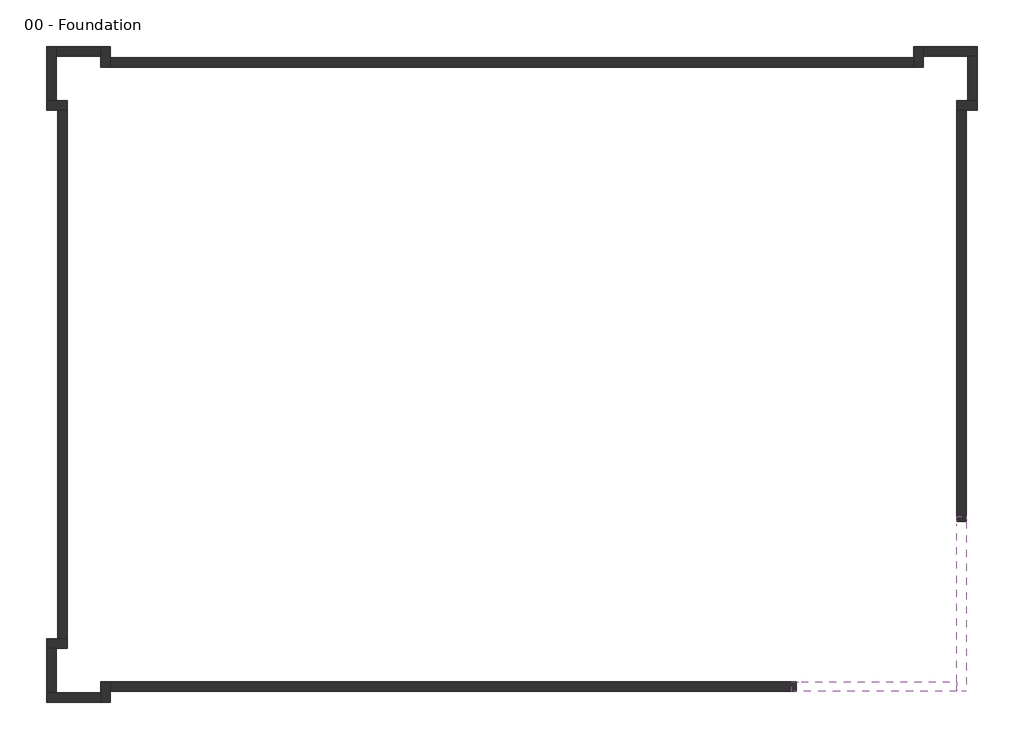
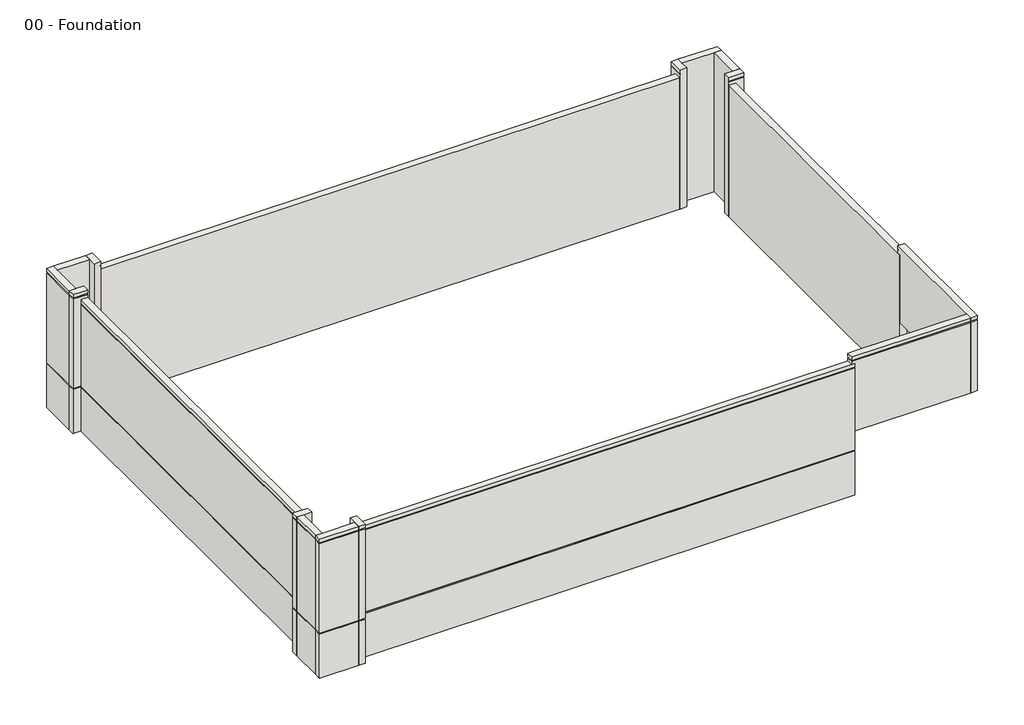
# One storey: 18 walls.
"""IFC4 building model written with IfcOpenShell, lengths in millimetres."""

from ifc_helpers import new_model, si_unit, frame, origin, place, context, project, spatial, polyline, outline, extrude, faceted_brep, element, save

model = new_model("IFC4")

# Units and contexts
model_context = context("Model", 3, world=origin())
ifc_project = project(units=[si_unit("LENGTHUNIT", "METRE", prefix="MILLI")], contexts=[model_context])

# Site, building, storey
site = spatial("IfcSite", under=ifc_project)
building = spatial("IfcBuilding", under=site)
storey = spatial("IfcBuildingStorey", under=building, Name="00 - Foundation", Elevation=-1250.0)

# Walls
placement = place(None, origin())
element("IfcWall", 1, ObjectType="Exterior - Render on Brick on Block @ Entry", at=placement, inside=storey, context=model_context, shape_type="Brep", body=[
    faceted_brep([(18351.5272279, -6696.4313057, 3000.0), (18351.5272279, -13977.9313057, 3000.0), (18351.5272279, -14406.9313057, 3000.0), (18351.5272279, -14406.9313057, 7700.0), (18351.5272279, -14331.9313057, 7700.0), (18351.5272279, -14331.9313057, 7775.0), (18351.5272279, -14406.9313057, 7775.0), (18351.5272279, -14406.9313057, 8000.0), (18351.5272279, -13977.9313057, 8000.0), (18351.5272279, -6910.9313057, 8000.0), (18351.5272279, -6481.9313057, 8000.0), (18351.5272279, -6481.9313057, 7775.0), (18351.5272279, -6556.9313057, 7775.0), (18351.5272279, -6556.9313057, 7700.0), (18351.5272279, -6481.9313057, 7700.0), (18351.5272279, -6481.9313057, 7500.0), (18351.5272279, -6696.4313057, 7500.0), (18780.5272279, -14406.9313057, 3000.0), (18780.5272279, -6696.4313057, 3000.0), (18780.5272279, -6696.4313057, 7200.0), (18780.5272279, -6696.4313057, 7275.0), (18780.5272279, -6696.4313057, 7500.0), (18780.5272279, -6481.9313057, 7500.0), (18780.5272279, -6481.9313057, 7700.0), (18780.5272279, -14406.9313057, 7700.0), (18780.5272279, -6481.9313057, 8000.0), (18780.5272279, -14406.9313057, 8000.0), (18780.5272279, -14406.9313057, 7775.0), (18780.5272279, -6481.9313057, 7775.0), (18705.5272279, -6556.9313057, 7700.0), (18705.5272279, -6556.9313057, 7775.0), (18705.5272279, -14331.9313057, 7775.0), (18705.5272279, -14331.9313057, 7700.0)], [[[0, 1, 2, 3, 4, 5, 6, 7, 8, 9, 10, 11, 12, 13, 14, 15, 16]], [[17, 18, 19, 20, 21, 22, 23, 24]], [[25, 26, 27, 28]], [[2, 1, 0, 18, 17]], [[10, 9, 8, 7, 26, 25]], [[29, 30, 31, 32]], [[2, 17, 24, 3]], [[26, 7, 6, 27]], [[31, 30, 12, 11, 28, 27, 6, 5]], [[29, 32, 4, 3, 24, 23, 14, 13]], [[30, 29, 13, 12]], [[32, 31, 5, 4]], [[18, 0, 16, 21, 20, 19]], [[22, 21, 16, 15]], [[10, 25, 28, 11]], [[22, 15, 14, 23]]]),
])
element("IfcWall", 2, ObjectType="Exterior - Render on Brick on Block @ Entry", at=placement, inside=storey, context=model_context, shape_type="Brep", body=[
    faceted_brep([(18351.5272279, -13977.9313057, 3000.0), (11070.0272279, -13977.9313057, 3000.0), (11070.0272279, -13977.9313057, 7500.0), (10855.5272279, -13977.9313057, 7500.0), (10855.5272279, -13977.9313057, 7700.0), (10930.5272279, -13977.9313057, 7700.0), (10930.5272279, -13977.9313057, 7775.0), (10855.5272279, -13977.9313057, 7775.0), (10855.5272279, -13977.9313057, 8000.0), (11284.5272279, -13977.9313057, 8000.0), (18351.5272279, -13977.9313057, 8000.0), (11070.0272279, -14406.9313057, 3000.0), (18351.5272279, -14406.9313057, 3000.0), (18351.5272279, -14406.9313057, 7700.0), (10855.5272279, -14406.9313057, 7700.0), (10855.5272279, -14406.9313057, 7500.0), (11070.0272279, -14406.9313057, 7500.0), (11070.0272279, -14406.9313057, 7275.0), (11070.0272279, -14406.9313057, 7200.0), (18351.5272279, -14406.9313057, 8000.0), (10855.5272279, -14406.9313057, 8000.0), (10855.5272279, -14406.9313057, 7775.0), (18351.5272279, -14406.9313057, 7775.0), (18351.5272279, -14331.9313057, 7700.0), (18351.5272279, -14331.9313057, 7775.0), (10930.5272279, -14331.9313057, 7775.0), (10930.5272279, -14331.9313057, 7700.0)], [[[0, 1, 2, 3, 4, 5, 6, 7, 8, 9, 10]], [[11, 12, 13, 14, 15, 16, 17, 18]], [[19, 20, 21, 22]], [[1, 0, 12, 11]], [[10, 9, 8, 20, 19]], [[23, 24, 25, 26]], [[0, 10, 19, 22, 24, 23, 13, 12]], [[22, 21, 7, 6, 25, 24]], [[14, 13, 23, 26, 5, 4]], [[26, 25, 6, 5]], [[1, 11, 18, 17, 16, 2]], [[3, 2, 16, 15]], [[20, 8, 7, 21]], [[3, 15, 14, 4]]]),
])
element("IfcWall", 3, ObjectType="Exterior - Render on Brick on Block", at=placement, inside=storey, context=model_context, shape_type="Brep", body=[
    faceted_brep([(11070.0272279, -13977.9313057, -1250.0), (-20031.4727721, -13977.9313057, -1250.0), (-20031.4727721, -13977.9313057, 7500.0), (10855.5272279, -13977.9313057, 7500.0), (11070.0272279, -13977.9313057, 7500.0), (11070.0272279, -13977.9313057, 3000.0), (11070.0272279, -14406.9313057, 7500.0), (-20031.4727721, -14406.9313057, 7500.0), (-20031.4727721, -14406.9313057, 7275.0), (11070.0272279, -14406.9313057, 7275.0), (-20031.4727721, -14406.9313057, -1250.0), (11070.0272279, -14406.9313057, -1250.0), (11070.0272279, -14406.9313057, 1675.0), (-20031.4727721, -14406.9313057, 1675.0), (-20031.4727721, -14406.9313057, 1750.0), (11070.0272279, -14406.9313057, 1750.0), (11070.0272279, -14406.9313057, 7200.0), (-20031.4727721, -14406.9313057, 7200.0), (11070.0272279, -14381.9313057, -1250.0), (-20031.4727721, -14381.9313057, -1250.0), (-20031.4727721, -14331.9313057, 1750.0), (11070.0272279, -14331.9313057, 1750.0), (11070.0272279, -14331.9313057, 1675.0), (-20031.4727721, -14331.9313057, 1675.0), (-20031.4727721, -14331.9313057, 7275.0), (11070.0272279, -14331.9313057, 7275.0), (11070.0272279, -14331.9313057, 7200.0), (-20031.4727721, -14331.9313057, 7200.0)], [[[0, 1, 2, 3, 4, 5]], [[6, 7, 8, 9]], [[10, 11, 12, 13]], [[14, 15, 16, 17]], [[4, 3, 2, 7, 6]], [[1, 0, 18, 19]], [[18, 11, 10, 19]], [[15, 14, 20, 21]], [[13, 12, 22, 23]], [[21, 20, 23, 22]], [[24, 25, 9, 8]], [[26, 27, 17, 16]], [[25, 24, 27, 26]], [[2, 1, 19, 10, 13, 23, 20, 14, 17, 27, 24, 8, 7]], [[4, 6, 9, 25, 26, 16, 15, 21, 22, 12, 11, 18, 0, 5]]]),
])
element("IfcWall", 4, ObjectType="Exterior - Render on Brick on Block", at=placement, inside=storey, context=model_context, shape_type="Brep", body=[
    faceted_brep([(-20460.4727721, -13977.9313057, -1250.0), (-20460.4727721, -14477.7313057, -1250.0), (-20460.4727721, -14906.7313057, -1250.0), (-20460.4727721, -14906.7313057, 1675.0), (-20460.4727721, -14831.7313057, 1675.0), (-20460.4727721, -14831.7313057, 1750.0), (-20460.4727721, -14906.7313057, 1750.0), (-20460.4727721, -14906.7313057, 7700.0), (-20460.4727721, -14831.7313057, 7700.0), (-20460.4727721, -14831.7313057, 7775.0), (-20460.4727721, -14906.7313057, 7775.0), (-20460.4727721, -14906.7313057, 8000.0), (-20460.4727721, -14477.7313057, 8000.0), (-20460.4727721, -13977.9313057, 8000.0), (-20031.4727721, -13977.9313057, 8000.0), (-20031.4727721, -14906.7313057, 8000.0), (-20031.4727721, -14906.7313057, 7775.0), (-20031.4727721, -13977.9313057, 7775.0), (-20031.4727721, -14906.7313057, -1250.0), (-20031.4727721, -14406.9313057, -1250.0), (-20031.4727721, -13977.9313057, -1250.0), (-20031.4727721, -13977.9313057, 7500.0), (-20031.4727721, -13977.9313057, 7700.0), (-20031.4727721, -14906.7313057, 7700.0), (-20031.4727721, -14906.7313057, 1750.0), (-20031.4727721, -14406.9313057, 1750.0), (-20031.4727721, -14331.9313057, 1750.0), (-20031.4727721, -14331.9313057, 1675.0), (-20031.4727721, -14406.9313057, 1675.0), (-20031.4727721, -14906.7313057, 1675.0), (-20056.4727721, -13977.9313057, -1250.0), (-20056.4727721, -14906.7313057, -1250.0), (-20106.4727721, -14331.9313057, 1675.0), (-20106.4727721, -14331.9313057, 1750.0), (-20106.4727721, -14831.7313057, 1750.0), (-20106.4727721, -14831.7313057, 1675.0), (-20106.4727721, -14831.7313057, 7775.0), (-20106.4727721, -13977.9313057, 7775.0), (-20106.4727721, -13977.9313057, 7700.0), (-20106.4727721, -14831.7313057, 7700.0)], [[[0, 1, 2, 3, 4, 5, 6, 7, 8, 9, 10, 11, 12, 13]], [[14, 15, 16, 17]], [[18, 19, 20, 21, 22, 23, 24, 25, 26, 27, 28, 29]], [[13, 12, 11, 15, 14]], [[2, 1, 0, 30, 31]], [[32, 33, 34, 35]], [[36, 37, 17, 16, 10, 9]], [[38, 39, 8, 7, 23, 22]], [[37, 36, 39, 38]], [[0, 13, 14, 17, 37, 38, 22, 21, 20, 30]], [[20, 19, 18, 31, 30]], [[34, 33, 26, 25, 24, 6, 5]], [[32, 35, 4, 3, 29, 28, 27]], [[33, 32, 27, 26]], [[15, 11, 10, 16]], [[2, 31, 18, 29, 3]], [[6, 24, 23, 7]], [[35, 34, 5, 4]], [[39, 36, 9, 8]]]),
])
element("IfcWall", 5, ObjectType="Exterior - Render on Brick on Block", at=placement, inside=storey, context=model_context, shape_type="Brep", body=[
    faceted_brep([(-20460.4727721, -14477.7313057, -1250.0), (-22490.4727721, -14477.7313057, -1250.0), (-22919.4727721, -14477.7313057, -1250.0), (-22919.4727721, -14477.7313057, 1675.0), (-22844.4727721, -14477.7313057, 1675.0), (-22844.4727721, -14477.7313057, 1750.0), (-22919.4727721, -14477.7313057, 1750.0), (-22919.4727721, -14477.7313057, 7700.0), (-22844.4727721, -14477.7313057, 7700.0), (-22844.4727721, -14477.7313057, 7775.0), (-22919.4727721, -14477.7313057, 7775.0), (-22919.4727721, -14477.7313057, 8000.0), (-22490.4727721, -14477.7313057, 8000.0), (-20460.4727721, -14477.7313057, 8000.0), (-20460.4727721, -14906.7313057, 8000.0), (-22919.4727721, -14906.7313057, 8000.0), (-22919.4727721, -14906.7313057, 7775.0), (-20460.4727721, -14906.7313057, 7775.0), (-22919.4727721, -14906.7313057, -1250.0), (-20460.4727721, -14906.7313057, -1250.0), (-20460.4727721, -14906.7313057, 1675.0), (-22919.4727721, -14906.7313057, 1675.0), (-22919.4727721, -14906.7313057, 1750.0), (-20460.4727721, -14906.7313057, 1750.0), (-20460.4727721, -14906.7313057, 7700.0), (-22919.4727721, -14906.7313057, 7700.0), (-20460.4727721, -14881.7313057, -1250.0), (-22919.4727721, -14881.7313057, -1250.0), (-22844.4727721, -14831.7313057, 1675.0), (-20460.4727721, -14831.7313057, 1675.0), (-20460.4727721, -14831.7313057, 1750.0), (-22844.4727721, -14831.7313057, 1750.0), (-22844.4727721, -14831.7313057, 7775.0), (-22844.4727721, -14831.7313057, 7700.0), (-20460.4727721, -14831.7313057, 7700.0), (-20460.4727721, -14831.7313057, 7775.0)], [[[0, 1, 2, 3, 4, 5, 6, 7, 8, 9, 10, 11, 12, 13]], [[14, 15, 16, 17]], [[18, 19, 20, 21]], [[22, 23, 24, 25]], [[13, 12, 11, 15, 14]], [[2, 1, 0, 26, 27]], [[28, 29, 30, 31]], [[32, 33, 34, 35]], [[0, 13, 14, 17, 35, 34, 24, 23, 30, 29, 20, 19, 26]], [[19, 18, 27, 26]], [[31, 30, 23, 22, 6, 5]], [[29, 28, 4, 3, 21, 20]], [[9, 32, 35, 17, 16, 10]], [[34, 33, 8, 7, 25, 24]], [[15, 11, 10, 16]], [[2, 27, 18, 21, 3]], [[6, 22, 25, 7]], [[28, 31, 5, 4]], [[33, 32, 9, 8]]]),
])
element("IfcWall", 6, ObjectType="Exterior - Render on Brick on Block", at=placement, inside=storey, context=model_context, shape_type="SweptSolid", body=[
    extrude(outline(polyline([(-1250.0, -22490.4727721), (8000.0, -22490.4727721), (8000.0, -22919.4727721), (7775.0, -22919.4727721), (7775.0, -22844.4727721), (7700.0, -22844.4727721), (7700.0, -22919.4727721), (1750.0, -22919.4727721), (1750.0, -22844.4727721), (1675.0, -22844.4727721), (1675.0, -22919.4727721), (-1250.0, -22919.4727721), (-1250.0, -22894.4727721), (-1250.0, -22490.4727721)])), frame((0.0, -14477.7313057, 0.0), z_axis=(0.0, 1.0, 0.0), x_axis=(0.0, 0.0, 1.0)), (0.0, 0.0, 1.0), 2030.0),
])
element("IfcWall", 7, ObjectType="Exterior - Render on Brick on Block", at=placement, inside=storey, context=model_context, shape_type="Brep", body=[
    faceted_brep([(-22919.4727721, -12447.7313057, -1250.0), (-22490.4727721, -12447.7313057, -1250.0), (-21990.4727721, -12447.7313057, -1250.0), (-21990.4727721, -12447.7313057, 8000.0), (-22490.4727721, -12447.7313057, 8000.0), (-22919.4727721, -12447.7313057, 8000.0), (-22919.4727721, -12447.7313057, 7775.0), (-22844.4727721, -12447.7313057, 7775.0), (-22844.4727721, -12447.7313057, 7700.0), (-22919.4727721, -12447.7313057, 7700.0), (-22919.4727721, -12447.7313057, 1750.0), (-22844.4727721, -12447.7313057, 1750.0), (-22844.4727721, -12447.7313057, 1675.0), (-22919.4727721, -12447.7313057, 1675.0), (-22919.4727721, -12018.7313057, 8000.0), (-21990.4727721, -12018.7313057, 8000.0), (-21990.4727721, -12018.7313057, 7775.0), (-22919.4727721, -12018.7313057, 7775.0), (-21990.4727721, -12018.7313057, -1250.0), (-22419.4727721, -12018.7313057, -1250.0), (-22919.4727721, -12018.7313057, -1250.0), (-22919.4727721, -12018.7313057, 1675.0), (-22419.4727721, -12018.7313057, 1675.0), (-22344.4727721, -12018.7313057, 1675.0), (-22344.4727721, -12018.7313057, 1750.0), (-22419.4727721, -12018.7313057, 1750.0), (-22919.4727721, -12018.7313057, 1750.0), (-22919.4727721, -12018.7313057, 7700.0), (-21990.4727721, -12018.7313057, 7700.0), (-21990.4727721, -12018.7313057, 7500.0), (-22919.4727721, -12043.7313057, -1250.0), (-21990.4727721, -12043.7313057, -1250.0), (-22844.4727721, -12093.7313057, 1675.0), (-22844.4727721, -12093.7313057, 1750.0), (-22344.4727721, -12093.7313057, 1750.0), (-22344.4727721, -12093.7313057, 1675.0), (-22844.4727721, -12093.7313057, 7775.0), (-21990.4727721, -12093.7313057, 7775.0), (-21990.4727721, -12093.7313057, 7700.0), (-22844.4727721, -12093.7313057, 7700.0)], [[[0, 1, 2, 3, 4, 5, 6, 7, 8, 9, 10, 11, 12, 13]], [[14, 15, 16, 17]], [[18, 19, 20, 21, 22, 23, 24, 25, 26, 27, 28, 29]], [[5, 4, 3, 15, 14]], [[2, 1, 0, 30, 31]], [[32, 33, 34, 35]], [[36, 37, 38, 39]], [[5, 14, 17, 6]], [[30, 0, 13, 21, 20]], [[26, 10, 9, 27]], [[20, 19, 18, 31, 30]], [[34, 33, 11, 10, 26, 25, 24]], [[32, 35, 23, 22, 21, 13, 12]], [[33, 32, 12, 11]], [[37, 36, 7, 6, 17, 16]], [[39, 38, 28, 27, 9, 8]], [[36, 39, 8, 7]], [[3, 2, 31, 18, 29, 28, 38, 37, 16, 15]], [[35, 34, 24, 23]]]),
])
element("IfcWall", 8, ObjectType="Exterior - Render on Brick on Block", at=placement, inside=storey, context=model_context, shape_type="SweptSolid", body=[
    extrude(outline(polyline([(-1250.0, -21990.4727721), (7500.0, -21990.4727721), (7500.0, -22419.4727721), (7275.0, -22419.4727721), (7275.0, -22344.4727721), (7200.0, -22344.4727721), (7200.0, -22419.4727721), (1750.0, -22419.4727721), (1750.0, -22344.4727721), (1675.0, -22344.4727721), (1675.0, -22419.4727721), (-1250.0, -22419.4727721), (-1250.0, -22394.4727721), (-1250.0, -21990.4727721)])), frame((0.0, -12018.7313057, 0.0), z_axis=(0.0, 1.0, 0.0), x_axis=(0.0, 0.0, 1.0)), (0.0, 0.0, 1.0), 23973.8),
])
element("IfcWall", 9, ObjectType="Exterior - Render on Brick on Block", at=placement, inside=storey, context=model_context, shape_type="Brep", body=[
    faceted_brep([(-21990.4727721, 12384.0686943, -1250.0), (-22490.4727721, 12384.0686943, -1250.0), (-22919.4727721, 12384.0686943, -1250.0), (-22919.4727721, 12384.0686943, 1675.0), (-22844.4727721, 12384.0686943, 1675.0), (-22844.4727721, 12384.0686943, 1750.0), (-22919.4727721, 12384.0686943, 1750.0), (-22919.4727721, 12384.0686943, 7700.0), (-22844.4727721, 12384.0686943, 7700.0), (-22844.4727721, 12384.0686943, 7775.0), (-22919.4727721, 12384.0686943, 7775.0), (-22919.4727721, 12384.0686943, 8000.0), (-22490.4727721, 12384.0686943, 8000.0), (-21990.4727721, 12384.0686943, 8000.0), (-21990.4727721, 11955.0686943, 8000.0), (-22919.4727721, 11955.0686943, 8000.0), (-22919.4727721, 11955.0686943, 7775.0), (-21990.4727721, 11955.0686943, 7775.0), (-22919.4727721, 11955.0686943, -1250.0), (-22419.4727721, 11955.0686943, -1250.0), (-21990.4727721, 11955.0686943, -1250.0), (-21990.4727721, 11955.0686943, 7500.0), (-21990.4727721, 11955.0686943, 7700.0), (-22919.4727721, 11955.0686943, 7700.0), (-22919.4727721, 11955.0686943, 1750.0), (-22419.4727721, 11955.0686943, 1750.0), (-22344.4727721, 11955.0686943, 1750.0), (-22344.4727721, 11955.0686943, 1675.0), (-22419.4727721, 11955.0686943, 1675.0), (-22919.4727721, 11955.0686943, 1675.0), (-21990.4727721, 11980.0686943, -1250.0), (-22919.4727721, 11980.0686943, -1250.0), (-22344.4727721, 12030.0686943, 1675.0), (-22344.4727721, 12030.0686943, 1750.0), (-22844.4727721, 12030.0686943, 1750.0), (-22844.4727721, 12030.0686943, 1675.0), (-22844.4727721, 12030.0686943, 7775.0), (-21990.4727721, 12030.0686943, 7775.0), (-21990.4727721, 12030.0686943, 7700.0), (-22844.4727721, 12030.0686943, 7700.0)], [[[0, 1, 2, 3, 4, 5, 6, 7, 8, 9, 10, 11, 12, 13]], [[14, 15, 16, 17]], [[18, 19, 20, 21, 22, 23, 24, 25, 26, 27, 28, 29]], [[13, 12, 11, 15, 14]], [[2, 1, 0, 30, 31]], [[32, 33, 34, 35]], [[36, 37, 17, 16, 10, 9]], [[38, 39, 8, 7, 23, 22]], [[37, 36, 39, 38]], [[0, 13, 14, 17, 37, 38, 22, 21, 20, 30]], [[20, 19, 18, 31, 30]], [[34, 33, 26, 25, 24, 6, 5]], [[32, 35, 4, 3, 29, 28, 27]], [[33, 32, 27, 26]], [[15, 11, 10, 16]], [[2, 31, 18, 29, 3]], [[6, 24, 23, 7]], [[35, 34, 5, 4]], [[39, 36, 9, 8]]]),
])
element("IfcWall", 10, ObjectType="Exterior - Render on Brick on Block", at=placement, inside=storey, context=model_context, shape_type="Brep", body=[
    faceted_brep([(-22490.4727721, 12384.0686943, -1250.0), (-22490.4727721, 14414.0686943, -1250.0), (-22490.4727721, 14843.0686943, -1250.0), (-22490.4727721, 14843.0686943, 1675.0), (-22490.4727721, 14768.0686943, 1675.0), (-22490.4727721, 14768.0686943, 1750.0), (-22490.4727721, 14843.0686943, 1750.0), (-22490.4727721, 14843.0686943, 7700.0), (-22490.4727721, 14768.0686943, 7700.0), (-22490.4727721, 14768.0686943, 7775.0), (-22490.4727721, 14843.0686943, 7775.0), (-22490.4727721, 14843.0686943, 8000.0), (-22490.4727721, 14414.0686943, 8000.0), (-22490.4727721, 12384.0686943, 8000.0), (-22919.4727721, 12384.0686943, 8000.0), (-22919.4727721, 14843.0686943, 8000.0), (-22919.4727721, 14843.0686943, 7775.0), (-22919.4727721, 12384.0686943, 7775.0), (-22919.4727721, 14843.0686943, -1250.0), (-22919.4727721, 12384.0686943, -1250.0), (-22919.4727721, 12384.0686943, 1675.0), (-22919.4727721, 14843.0686943, 1675.0), (-22919.4727721, 14843.0686943, 1750.0), (-22919.4727721, 12384.0686943, 1750.0), (-22919.4727721, 12384.0686943, 7700.0), (-22919.4727721, 14843.0686943, 7700.0), (-22894.4727721, 12384.0686943, -1250.0), (-22894.4727721, 14843.0686943, -1250.0), (-22844.4727721, 14768.0686943, 1675.0), (-22844.4727721, 12384.0686943, 1675.0), (-22844.4727721, 12384.0686943, 1750.0), (-22844.4727721, 14768.0686943, 1750.0), (-22844.4727721, 14768.0686943, 7775.0), (-22844.4727721, 14768.0686943, 7700.0), (-22844.4727721, 12384.0686943, 7700.0), (-22844.4727721, 12384.0686943, 7775.0)], [[[0, 1, 2, 3, 4, 5, 6, 7, 8, 9, 10, 11, 12, 13]], [[14, 15, 16, 17]], [[18, 19, 20, 21]], [[22, 23, 24, 25]], [[13, 12, 11, 15, 14]], [[2, 1, 0, 26, 27]], [[28, 29, 30, 31]], [[32, 33, 34, 35]], [[0, 13, 14, 17, 35, 34, 24, 23, 30, 29, 20, 19, 26]], [[19, 18, 27, 26]], [[31, 30, 23, 22, 6, 5]], [[29, 28, 4, 3, 21, 20]], [[9, 32, 35, 17, 16, 10]], [[34, 33, 8, 7, 25, 24]], [[15, 11, 10, 16]], [[2, 27, 18, 21, 3]], [[6, 22, 25, 7]], [[28, 31, 5, 4]], [[33, 32, 9, 8]]]),
])
element("IfcWall", 11, ObjectType="Exterior - Render on Brick on Block", at=placement, inside=storey, context=model_context, shape_type="SweptSolid", body=[
    extrude(outline(polyline([(14414.0686943, -1250.0), (14414.0686943, 8000.0), (14843.0686943, 8000.0), (14843.0686943, 7775.0), (14768.0686943, 7775.0), (14768.0686943, 7700.0), (14843.0686943, 7700.0), (14843.0686943, 1750.0), (14768.0686943, 1750.0), (14768.0686943, 1675.0), (14843.0686943, 1675.0), (14843.0686943, -1250.0), (14818.0686943, -1250.0), (14414.0686943, -1250.0)])), frame((-22490.4727721, 0.0, 0.0), z_axis=(1.0, 0.0, 0.0), x_axis=(0.0, 1.0, 0.0)), (0.0, 0.0, 1.0), 2030.0),
])
element("IfcWall", 12, ObjectType="Exterior - Render on Brick on Block", at=placement, inside=storey, context=model_context, shape_type="Brep", body=[
    faceted_brep([(-20460.4727721, 14843.0686943, -1250.0), (-20460.4727721, 14414.0686943, -1250.0), (-20460.4727721, 13914.0686943, -1250.0), (-20460.4727721, 13914.0686943, 8000.0), (-20460.4727721, 14414.0686943, 8000.0), (-20460.4727721, 14843.0686943, 8000.0), (-20460.4727721, 14843.0686943, 7775.0), (-20460.4727721, 14768.0686943, 7775.0), (-20460.4727721, 14768.0686943, 7700.0), (-20460.4727721, 14843.0686943, 7700.0), (-20460.4727721, 14843.0686943, 1750.0), (-20460.4727721, 14768.0686943, 1750.0), (-20460.4727721, 14768.0686943, 1675.0), (-20460.4727721, 14843.0686943, 1675.0), (-20031.4727721, 14843.0686943, 8000.0), (-20031.4727721, 13914.0686943, 8000.0), (-20031.4727721, 13914.0686943, 7775.0), (-20031.4727721, 14843.0686943, 7775.0), (-20031.4727721, 13914.0686943, -1250.0), (-20031.4727721, 14343.0686943, -1250.0), (-20031.4727721, 14843.0686943, -1250.0), (-20031.4727721, 14843.0686943, 1675.0), (-20031.4727721, 14343.0686943, 1675.0), (-20031.4727721, 14268.0686943, 1675.0), (-20031.4727721, 14268.0686943, 1750.0), (-20031.4727721, 14343.0686943, 1750.0), (-20031.4727721, 14843.0686943, 1750.0), (-20031.4727721, 14843.0686943, 7700.0), (-20031.4727721, 13914.0686943, 7700.0), (-20031.4727721, 13914.0686943, 7500.0), (-20056.4727721, 14843.0686943, -1250.0), (-20056.4727721, 13914.0686943, -1250.0), (-20106.4727721, 14768.0686943, 1675.0), (-20106.4727721, 14768.0686943, 1750.0), (-20106.4727721, 14268.0686943, 1750.0), (-20106.4727721, 14268.0686943, 1675.0), (-20106.4727721, 14768.0686943, 7775.0), (-20106.4727721, 13914.0686943, 7775.0), (-20106.4727721, 13914.0686943, 7700.0), (-20106.4727721, 14768.0686943, 7700.0)], [[[0, 1, 2, 3, 4, 5, 6, 7, 8, 9, 10, 11, 12, 13]], [[14, 15, 16, 17]], [[18, 19, 20, 21, 22, 23, 24, 25, 26, 27, 28, 29]], [[5, 4, 3, 15, 14]], [[2, 1, 0, 30, 31]], [[32, 33, 34, 35]], [[36, 37, 38, 39]], [[5, 14, 17, 6]], [[30, 0, 13, 21, 20]], [[26, 10, 9, 27]], [[20, 19, 18, 31, 30]], [[34, 33, 11, 10, 26, 25, 24]], [[32, 35, 23, 22, 21, 13, 12]], [[33, 32, 12, 11]], [[37, 36, 7, 6, 17, 16]], [[39, 38, 28, 27, 9, 8]], [[36, 39, 8, 7]], [[3, 2, 31, 18, 29, 28, 38, 37, 16, 15]], [[35, 34, 24, 23]]]),
])
element("IfcWall", 13, ObjectType="Exterior - Render on Brick on Block", at=placement, inside=storey, context=model_context, shape_type="SweptSolid", body=[
    extrude(outline(polyline([(13914.0686943, -1250.0), (13914.0686943, 7500.0), (14343.0686943, 7500.0), (14343.0686943, 7275.0), (14268.0686943, 7275.0), (14268.0686943, 7200.0), (14343.0686943, 7200.0), (14343.0686943, 1750.0), (14268.0686943, 1750.0), (14268.0686943, 1675.0), (14343.0686943, 1675.0), (14343.0686943, -1250.0), (14318.0686943, -1250.0), (13914.0686943, -1250.0)])), frame((-20031.4727721, 0.0, 0.0), z_axis=(1.0, 0.0, 0.0), x_axis=(0.0, 1.0, 0.0)), (0.0, 0.0, 1.0), 36424.0),
])
element("IfcWall", 14, ObjectType="Exterior - Render on Brick on Block", at=placement, inside=storey, context=model_context, shape_type="Brep", body=[
    faceted_brep([(16821.5272279, 13914.0686943, -1250.0), (16821.5272279, 14414.0686943, -1250.0), (16821.5272279, 14843.0686943, -1250.0), (16821.5272279, 14843.0686943, 1675.0), (16821.5272279, 14768.0686943, 1675.0), (16821.5272279, 14768.0686943, 1750.0), (16821.5272279, 14843.0686943, 1750.0), (16821.5272279, 14843.0686943, 7700.0), (16821.5272279, 14768.0686943, 7700.0), (16821.5272279, 14768.0686943, 7775.0), (16821.5272279, 14843.0686943, 7775.0), (16821.5272279, 14843.0686943, 8000.0), (16821.5272279, 14414.0686943, 8000.0), (16821.5272279, 13914.0686943, 8000.0), (16392.5272279, 13914.0686943, 8000.0), (16392.5272279, 14843.0686943, 8000.0), (16392.5272279, 14843.0686943, 7775.0), (16392.5272279, 13914.0686943, 7775.0), (16392.5272279, 14843.0686943, -1250.0), (16392.5272279, 14343.0686943, -1250.0), (16392.5272279, 13914.0686943, -1250.0), (16392.5272279, 13914.0686943, 7500.0), (16392.5272279, 13914.0686943, 7700.0), (16392.5272279, 14843.0686943, 7700.0), (16392.5272279, 14843.0686943, 1750.0), (16392.5272279, 14343.0686943, 1750.0), (16392.5272279, 14268.0686943, 1750.0), (16392.5272279, 14268.0686943, 1675.0), (16392.5272279, 14343.0686943, 1675.0), (16392.5272279, 14843.0686943, 1675.0), (16417.5272279, 13914.0686943, -1250.0), (16417.5272279, 14843.0686943, -1250.0), (16467.5272279, 14268.0686943, 1675.0), (16467.5272279, 14268.0686943, 1750.0), (16467.5272279, 14768.0686943, 1750.0), (16467.5272279, 14768.0686943, 1675.0), (16467.5272279, 14768.0686943, 7775.0), (16467.5272279, 13914.0686943, 7775.0), (16467.5272279, 13914.0686943, 7700.0), (16467.5272279, 14768.0686943, 7700.0)], [[[0, 1, 2, 3, 4, 5, 6, 7, 8, 9, 10, 11, 12, 13]], [[14, 15, 16, 17]], [[18, 19, 20, 21, 22, 23, 24, 25, 26, 27, 28, 29]], [[13, 12, 11, 15, 14]], [[2, 1, 0, 30, 31]], [[32, 33, 34, 35]], [[36, 37, 17, 16, 10, 9]], [[38, 39, 8, 7, 23, 22]], [[37, 36, 39, 38]], [[0, 13, 14, 17, 37, 38, 22, 21, 20, 30]], [[20, 19, 18, 31, 30]], [[34, 33, 26, 25, 24, 6, 5]], [[32, 35, 4, 3, 29, 28, 27]], [[33, 32, 27, 26]], [[15, 11, 10, 16]], [[2, 31, 18, 29, 3]], [[6, 24, 23, 7]], [[35, 34, 5, 4]], [[39, 36, 9, 8]]]),
])
element("IfcWall", 15, ObjectType="Exterior - Render on Brick on Block", at=placement, inside=storey, context=model_context, shape_type="Brep", body=[
    faceted_brep([(16821.5272279, 14414.0686943, -1250.0), (18851.5272279, 14414.0686943, -1250.0), (19280.5272279, 14414.0686943, -1250.0), (19280.5272279, 14414.0686943, 1675.0), (19205.5272279, 14414.0686943, 1675.0), (19205.5272279, 14414.0686943, 1750.0), (19280.5272279, 14414.0686943, 1750.0), (19280.5272279, 14414.0686943, 7700.0), (19205.5272279, 14414.0686943, 7700.0), (19205.5272279, 14414.0686943, 7775.0), (19280.5272279, 14414.0686943, 7775.0), (19280.5272279, 14414.0686943, 8000.0), (18851.5272279, 14414.0686943, 8000.0), (16821.5272279, 14414.0686943, 8000.0), (16821.5272279, 14843.0686943, 8000.0), (19280.5272279, 14843.0686943, 8000.0), (19280.5272279, 14843.0686943, 7775.0), (16821.5272279, 14843.0686943, 7775.0), (19280.5272279, 14843.0686943, -1250.0), (16821.5272279, 14843.0686943, -1250.0), (16821.5272279, 14843.0686943, 1675.0), (19280.5272279, 14843.0686943, 1675.0), (19280.5272279, 14843.0686943, 1750.0), (16821.5272279, 14843.0686943, 1750.0), (16821.5272279, 14843.0686943, 7700.0), (19280.5272279, 14843.0686943, 7700.0), (16821.5272279, 14818.0686943, -1250.0), (19280.5272279, 14818.0686943, -1250.0), (19205.5272279, 14768.0686943, 1675.0), (16821.5272279, 14768.0686943, 1675.0), (16821.5272279, 14768.0686943, 1750.0), (19205.5272279, 14768.0686943, 1750.0), (19205.5272279, 14768.0686943, 7775.0), (19205.5272279, 14768.0686943, 7700.0), (16821.5272279, 14768.0686943, 7700.0), (16821.5272279, 14768.0686943, 7775.0)], [[[0, 1, 2, 3, 4, 5, 6, 7, 8, 9, 10, 11, 12, 13]], [[14, 15, 16, 17]], [[18, 19, 20, 21]], [[22, 23, 24, 25]], [[13, 12, 11, 15, 14]], [[2, 1, 0, 26, 27]], [[28, 29, 30, 31]], [[32, 33, 34, 35]], [[0, 13, 14, 17, 35, 34, 24, 23, 30, 29, 20, 19, 26]], [[19, 18, 27, 26]], [[31, 30, 23, 22, 6, 5]], [[29, 28, 4, 3, 21, 20]], [[9, 32, 35, 17, 16, 10]], [[34, 33, 8, 7, 25, 24]], [[15, 11, 10, 16]], [[2, 27, 18, 21, 3]], [[6, 22, 25, 7]], [[28, 31, 5, 4]], [[33, 32, 9, 8]]]),
])
element("IfcWall", 16, ObjectType="Exterior - Render on Brick on Block", at=placement, inside=storey, context=model_context, shape_type="SweptSolid", body=[
    extrude(outline(polyline([(8000.0, 18851.5272279), (-1250.0, 18851.5272279), (-1250.0, 19255.5272279), (-1250.0, 19280.5272279), (1675.0, 19280.5272279), (1675.0, 19205.5272279), (1750.0, 19205.5272279), (1750.0, 19280.5272279), (7700.0, 19280.5272279), (7700.0, 19205.5272279), (7775.0, 19205.5272279), (7775.0, 19280.5272279), (8000.0, 19280.5272279), (8000.0, 18851.5272279)])), frame((0.0, 12384.0686943, 0.0), z_axis=(0.0, 1.0, 0.0), x_axis=(0.0, 0.0, 1.0)), (0.0, 0.0, 1.0), 2030.0),
])
element("IfcWall", 17, ObjectType="Exterior - Render on Brick on Block", at=placement, inside=storey, context=model_context, shape_type="Brep", body=[
    faceted_brep([(19280.5272279, 12384.0686943, -1250.0), (18851.5272279, 12384.0686943, -1250.0), (18351.5272279, 12384.0686943, -1250.0), (18351.5272279, 12384.0686943, 8000.0), (18851.5272279, 12384.0686943, 8000.0), (19280.5272279, 12384.0686943, 8000.0), (19280.5272279, 12384.0686943, 7775.0), (19205.5272279, 12384.0686943, 7775.0), (19205.5272279, 12384.0686943, 7700.0), (19280.5272279, 12384.0686943, 7700.0), (19280.5272279, 12384.0686943, 1750.0), (19205.5272279, 12384.0686943, 1750.0), (19205.5272279, 12384.0686943, 1675.0), (19280.5272279, 12384.0686943, 1675.0), (19280.5272279, 11955.0686943, 8000.0), (18351.5272279, 11955.0686943, 8000.0), (18351.5272279, 11955.0686943, 7775.0), (19280.5272279, 11955.0686943, 7775.0), (18351.5272279, 11955.0686943, -1250.0), (18780.5272279, 11955.0686943, -1250.0), (19280.5272279, 11955.0686943, -1250.0), (19280.5272279, 11955.0686943, 1675.0), (18780.5272279, 11955.0686943, 1675.0), (18705.5272279, 11955.0686943, 1675.0), (18705.5272279, 11955.0686943, 1750.0), (18780.5272279, 11955.0686943, 1750.0), (19280.5272279, 11955.0686943, 1750.0), (19280.5272279, 11955.0686943, 7700.0), (18351.5272279, 11955.0686943, 7700.0), (18351.5272279, 11955.0686943, 7500.0), (19280.5272279, 11980.0686943, -1250.0), (18351.5272279, 11980.0686943, -1250.0), (19205.5272279, 12030.0686943, 1675.0), (19205.5272279, 12030.0686943, 1750.0), (18705.5272279, 12030.0686943, 1750.0), (18705.5272279, 12030.0686943, 1675.0), (19205.5272279, 12030.0686943, 7775.0), (18351.5272279, 12030.0686943, 7775.0), (18351.5272279, 12030.0686943, 7700.0), (19205.5272279, 12030.0686943, 7700.0)], [[[0, 1, 2, 3, 4, 5, 6, 7, 8, 9, 10, 11, 12, 13]], [[14, 15, 16, 17]], [[18, 19, 20, 21, 22, 23, 24, 25, 26, 27, 28, 29]], [[5, 4, 3, 15, 14]], [[2, 1, 0, 30, 31]], [[32, 33, 34, 35]], [[36, 37, 38, 39]], [[5, 14, 17, 6]], [[30, 0, 13, 21, 20]], [[26, 10, 9, 27]], [[20, 19, 18, 31, 30]], [[34, 33, 11, 10, 26, 25, 24]], [[32, 35, 23, 22, 21, 13, 12]], [[33, 32, 12, 11]], [[37, 36, 7, 6, 17, 16]], [[39, 38, 28, 27, 9, 8]], [[36, 39, 8, 7]], [[3, 2, 31, 18, 29, 28, 38, 37, 16, 15]], [[35, 34, 24, 23]]]),
])
element("IfcWall", 18, ObjectType="Exterior - Render on Brick on Block", at=placement, inside=storey, context=model_context, shape_type="Brep", body=[
    faceted_brep([(18351.5272279, 11955.0686943, -1250.0), (18351.5272279, -6696.4313057, -1250.0), (18351.5272279, -6696.4313057, 3000.0), (18351.5272279, -6696.4313057, 7500.0), (18351.5272279, -6481.9313057, 7500.0), (18351.5272279, 11955.0686943, 7500.0), (18780.5272279, 11955.0686943, 7500.0), (18780.5272279, -6696.4313057, 7500.0), (18780.5272279, -6696.4313057, 7275.0), (18780.5272279, 11955.0686943, 7275.0), (18780.5272279, -6696.4313057, -1250.0), (18780.5272279, 11955.0686943, -1250.0), (18780.5272279, 11955.0686943, 1675.0), (18780.5272279, -6696.4313057, 1675.0), (18780.5272279, -6696.4313057, 1750.0), (18780.5272279, 11955.0686943, 1750.0), (18780.5272279, 11955.0686943, 7200.0), (18780.5272279, -6696.4313057, 7200.0), (18755.5272279, 11955.0686943, -1250.0), (18755.5272279, -6696.4313057, -1250.0), (18705.5272279, -6696.4313057, 1675.0), (18705.5272279, 11955.0686943, 1675.0), (18705.5272279, 11955.0686943, 1750.0), (18705.5272279, -6696.4313057, 1750.0), (18705.5272279, -6696.4313057, 7275.0), (18705.5272279, 11955.0686943, 7275.0), (18705.5272279, 11955.0686943, 7200.0), (18705.5272279, -6696.4313057, 7200.0)], [[[0, 1, 2, 3, 4, 5]], [[6, 7, 8, 9]], [[10, 11, 12, 13]], [[14, 15, 16, 17]], [[5, 4, 3, 7, 6]], [[1, 0, 18, 19]], [[20, 21, 22, 23]], [[24, 25, 9, 8]], [[26, 27, 17, 16]], [[25, 24, 27, 26]], [[0, 5, 6, 9, 25, 26, 16, 15, 22, 21, 12, 11, 18]], [[11, 10, 19, 18]], [[23, 22, 15, 14]], [[21, 20, 13, 12]], [[7, 3, 2, 1, 19, 10, 13, 20, 23, 14, 17, 27, 24, 8]]]),
])

save(model, "model.ifc")
